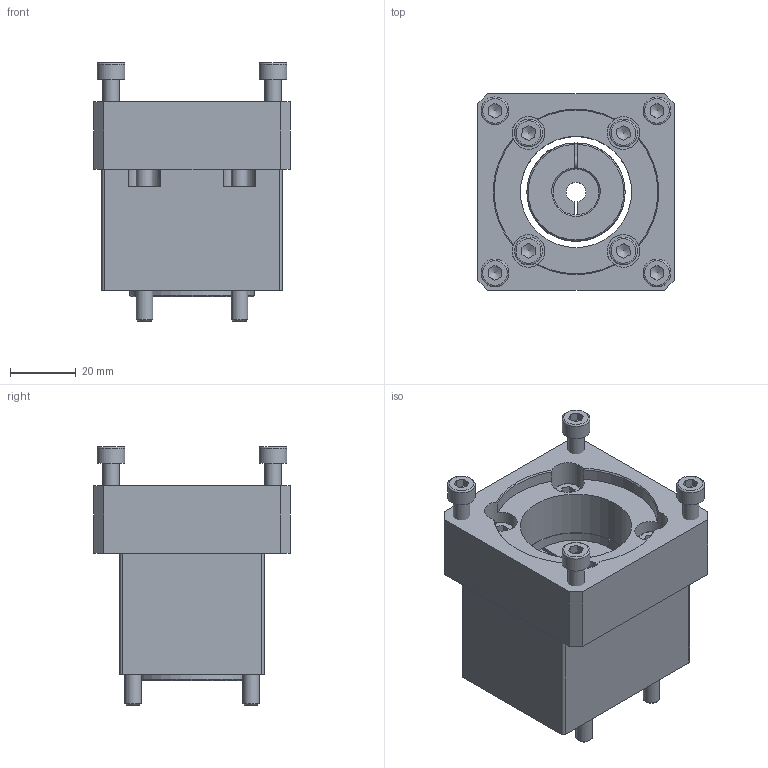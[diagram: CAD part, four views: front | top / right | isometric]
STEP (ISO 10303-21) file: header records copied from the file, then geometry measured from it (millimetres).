
FILE_DESCRIPTION(/* description */ ('EAMK-A O-Coupling housing'),/* implementation_level */ '2;1');
FILE_NAME(/* name */ 'C:\STORE\ホームページ用データ\\X2\30E230FC30BF53D64ED830AD30C330C8\X0\_2016_2016.10.06_\X2\30AB30BF30ED30B065398A025206\X0\\3D_STEP\J09742.stp',/* time_stamp */ '2016-10-17T17:37:50+09:00',/* author */ ('jp0tot'),/* organization */ ('FESTO'),/* preprocessor_version */ 'ST-DEVELOPER v15.6',/* originating_system */ 'Autodesk Inventor 2015',/* authorisation */ '');
FILE_SCHEMA (('AUTOMOTIVE_DESIGN { 1 0 10303 214 3 1 1 }'));
Length unit declared in the file: millimetre
Products named in the file (7): 3637942 EAMK-A-S38-38A_B-G2---(1O); 3637942 EAMK-A-S38-38A_B-G2; 1233256_EAMC_30_32_6_14; J08084; コピー版 JIS B 1176 - M5 x 55; コピー版 JIS B 1176 - M5 x 15; J09742
Bounding box: 60 x 60 x 79 mm (x, y, z)
Volume: 122298 mm3; surface area: 47824.5 mm2
Topology: 11 solids, 11 shells, 366 faces, 914 edges, 591 vertices
Faces by surface type: plane 183, cylinder 115, cone 50, torus 18
Full cylindrical faces by diameter (mm): 2 x12, 2.459 x4, 3.242 x2, 4 x2, 4.134 x4, 5 x8, 5.5 x8, 8.5 x8, 10 x4, 14.2 x1, 34 x2, 38 x2
Entity records: 8423 total; most frequent: CARTESIAN_POINT 1639, DIRECTION 1452, ORIENTED_EDGE 1252, EDGE_CURVE 626, AXIS2_PLACEMENT_3D 575, VERTEX_POINT 450, EDGE_LOOP 400, LINE 302
